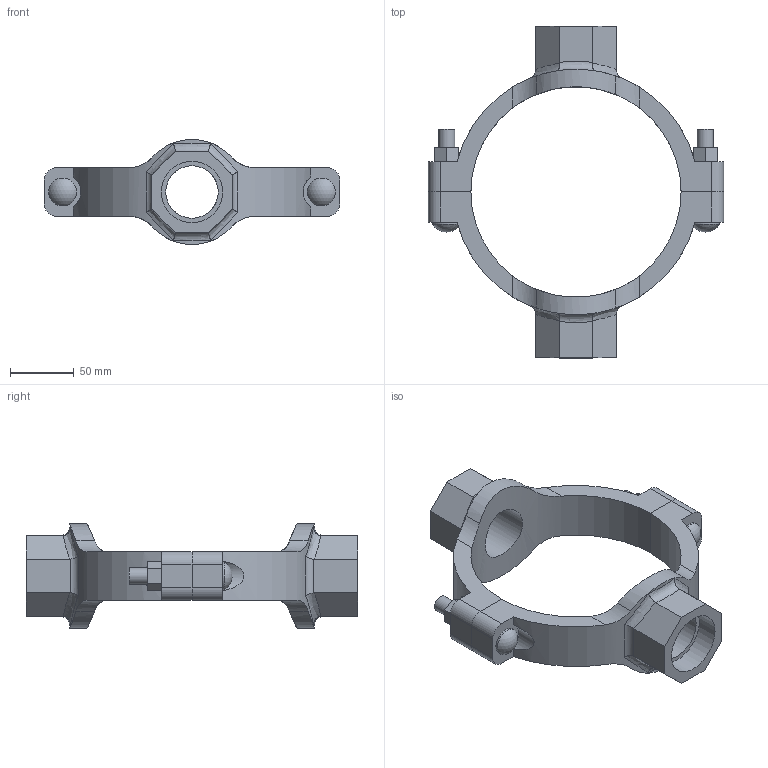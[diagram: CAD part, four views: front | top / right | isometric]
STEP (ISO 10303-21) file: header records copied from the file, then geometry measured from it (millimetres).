
FILE_DESCRIPTION(/* description */ ('VIC MECH-T BRANCH OUTLET CROSS STYLE 920N (THD)','CAx-IF Rec.Pracs.---Representation and Presentation of Product Manufacturing Information (PMI)---4.0---2014-10-13'),/* implementation_level */ '2;1');
FILE_NAME(/* name */ 'C:\Users\Vjadhav\AppData\Roaming\Autodesk\ApplicationPlugins\Back Up\Victaulic_IPS_Mechanical-Cross Outlet_Style 920N (FPT)\Victaulic_IPS_Mechanical-Cross Outlet_06.0 (165.1)x01.5x01.5 (150x40x40).stp',/* time_stamp */ '2020-08-06T18:59:54+05:00',/* author */ ('Vjadhav'),/* organization */ ('Victaulic'),/* preprocessor_version */ 'ST-DEVELOPER v17.2',/* originating_system */ 'Autodesk Inventor 2019',/* authorisation */ '');
FILE_SCHEMA (('AP242_MANAGED_MODEL_BASED_3D_ENGINEERING_MIM_LF { 1 0 10303 442 1 1 4 }'));
Length unit declared in the file: inch
Products named in the file (3): 920NT-06.0 (165.1)x01.5x01.5; 920NT-06.0 (165.1)x01.5; 920NT-06.0 (165.1)x01.5_1
Assembly tree (2 placements, depth 2):
  920NT-06.0 (165.1)x01.5x01.5
    920NT-06.0 (165.1)x01.5
    920NT-06.0 (165.1)x01.5_1
Bounding box: 231.9 x 260.6 x 82.42 mm (x, y, z)
Volume: 525254.7 mm3; surface area: 115537.1 mm2
Topology: 2 solids, 2 shells, 132 faces, 350 edges, 236 vertices
Faces by surface type: plane 68, cylinder 50, bspline 8, torus 4, sphere 2
Full cylindrical faces by diameter (mm): 12.7 x4, 21.982 x2, 41.275 x2, 48.26 x2
Entity records: 5234 total; most frequent: CARTESIAN_POINT 1721, ORIENTED_EDGE 700, DIRECTION 648, EDGE_CURVE 350, VERTEX_POINT 236, AXIS2_PLACEMENT_3D 231, LINE 186, VECTOR 186
